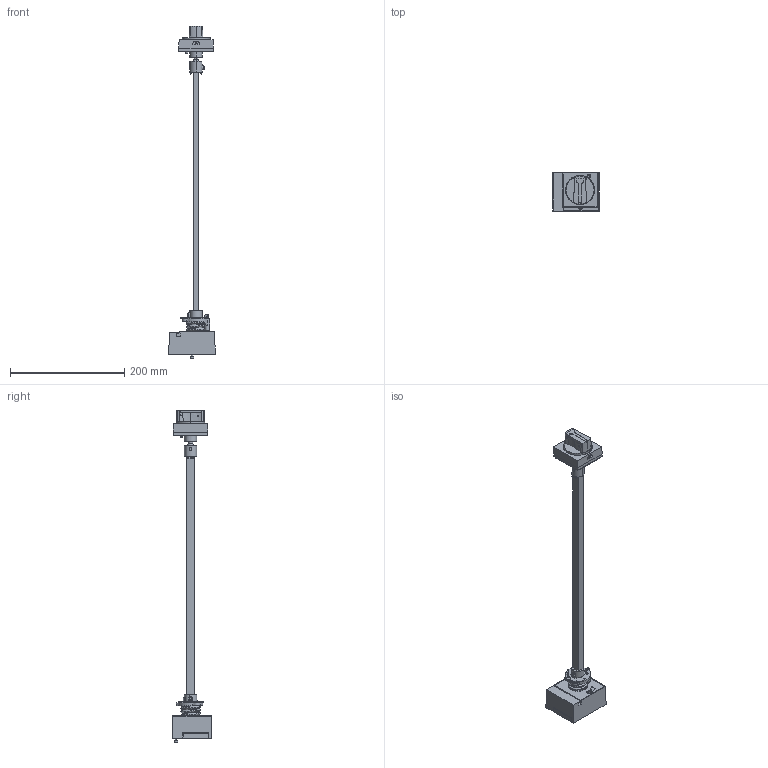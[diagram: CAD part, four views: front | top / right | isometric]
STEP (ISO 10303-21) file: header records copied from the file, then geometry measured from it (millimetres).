
FILE_DESCRIPTION((''),'2;1');
FILE_NAME('ERH-IP65-LV426934T-3D_ASM','2022-05-13T14:57:06',('SESA530330'),('Schneider-Electric'),'CREO PARAMETRIC BY PTC INC, 2019471','CREO PARAMETRIC BY PTC INC, 2019471','');
FILE_SCHEMA(('CONFIG_CONTROL_DESIGN'));
Length unit declared in the file: millimetre
Products named in the file (6): ERH-IP65_LV426933T-3D_LV426933; ERH-IP65_LV426933T-3D_LV426933T; ERH-IP65-LV426934T-3D_LV426933T; ERH-IP65-LV426934T-3D_KNOB; ERH-IP65_LV426933T-3D_LV426933_ASM; ERH-IP65-LV426934T-3D_ASM
Assembly tree (5 placements, depth 3):
  ERH-IP65-LV426934T-3D_ASM
    ERH-IP65_LV426933T-3D_LV426933_ASM
      ERH-IP65_LV426933T-3D_LV426933
      ERH-IP65_LV426933T-3D_LV426933T
      ERH-IP65-LV426934T-3D_LV426933T
      ERH-IP65-LV426934T-3D_KNOB
Bounding box: 81 x 68.06 x 580.74 mm (x, y, z)
Volume: 344165.7 mm3; surface area: 87710.2 mm2
Topology: 5 solids, 5 shells, 542 faces, 1414 edges, 936 vertices
Faces by surface type: plane 300, cylinder 185, extrusion 26, bspline 19, cone 10, torus 2
Entity records: 18888 total; most frequent: CARTESIAN_POINT 5310, ORIENTED_EDGE 2824, DIRECTION 2718, EDGE_CURVE 1412, VERTEX_POINT 936, AXIS2_PLACEMENT_3D 911, VECTOR 896, LINE 870
